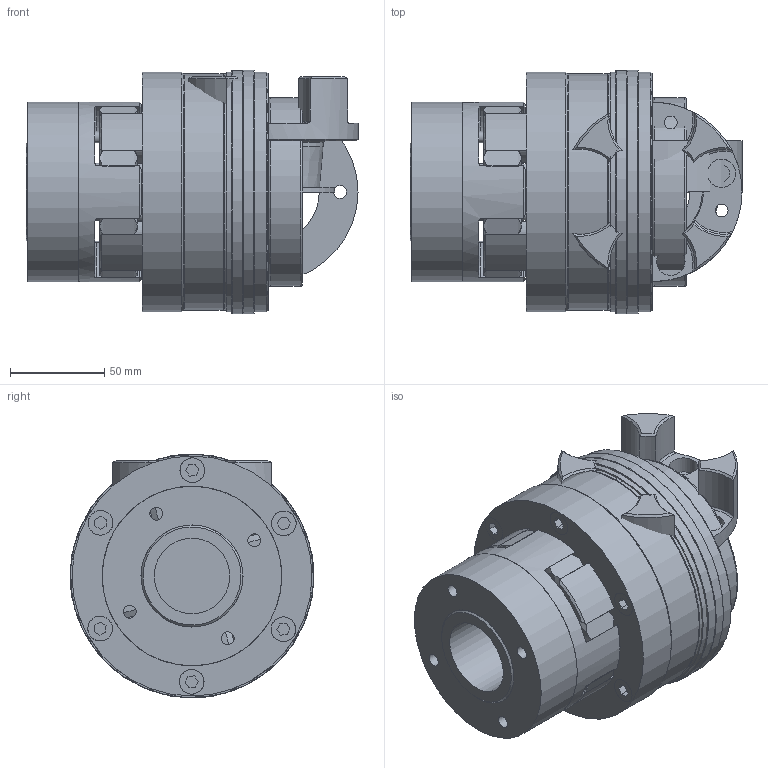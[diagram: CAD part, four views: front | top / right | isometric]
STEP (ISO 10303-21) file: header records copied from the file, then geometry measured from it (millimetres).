
FILE_DESCRIPTION( ( 'Unknown' ), '1' );
FILE_NAME( 'C:/Dokumente und Einstellungen/Sven/Desktop/hp kbk/E-AI/KBK EAI-42-165.stp', 'Unknown', ( 'Unknown' ), ( 'Unknown' ), 'XStep 1.0', 'Unknown', ' ' );
FILE_SCHEMA( ( 'automotive_design' ) );
Length unit declared in the file: millimetre
Products named in the file (19): Assem1; Assem2; Assem3; Assem4; Zylinderschraube DIN 912_6; ball_bearing_-_6013_0_01; ball_bearing_-_6013_0_02; ball_bearing_-_6013_0_03; KBK L-I-500 Grundkörper; Konusbuchse 500; Stellring 500; Druckring 500; Flansch 500; a_65; din_en_24017_m8x30_1; Elastormerflansch 42; Zahnkranz 42; KBE 3 - 42_Druckring; KBE 3 C- 42_Nabe
Bounding box: 175.7 x 129 x 129 mm (x, y, z)
Volume: 2061263.4 mm3; surface area: 632207.8 mm2
Topology: 44 solids, 44 shells, 1069 faces, 2404 edges, 1552 vertices
Faces by surface type: cylinder 376, plane 361, cone 274, torus 58
Full cylindrical faces by diameter (mm): 3 x4, 3.242 x6, 5.1 x6, 5.2 x6, 6 x16, 6.647 x30, 6.8 x16, 8 x15, 8.2 x12, 8.8 x8, 9 x12, 11.63 x7, 13 x8, 13.1 x12, 15 x8, 35 x4, 40 x4, 46 x4, 58 x2, 62 x2, 62.6 x2, 65 x7, 76.3 x6, 86 x4, 89 x2, 89.1 x6, 91 x2, 95 x4, 100 x7, 104.5 x2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
Entity records: 12378 total; most frequent: CARTESIAN_POINT 2688, DIRECTION 2076, ORIENTED_EDGE 1566, AXIS2_PLACEMENT_3D 967, EDGE_CURVE 783, EDGE_LOOP 724, VERTEX_POINT 589, FACE_OUTER_BOUND 549
